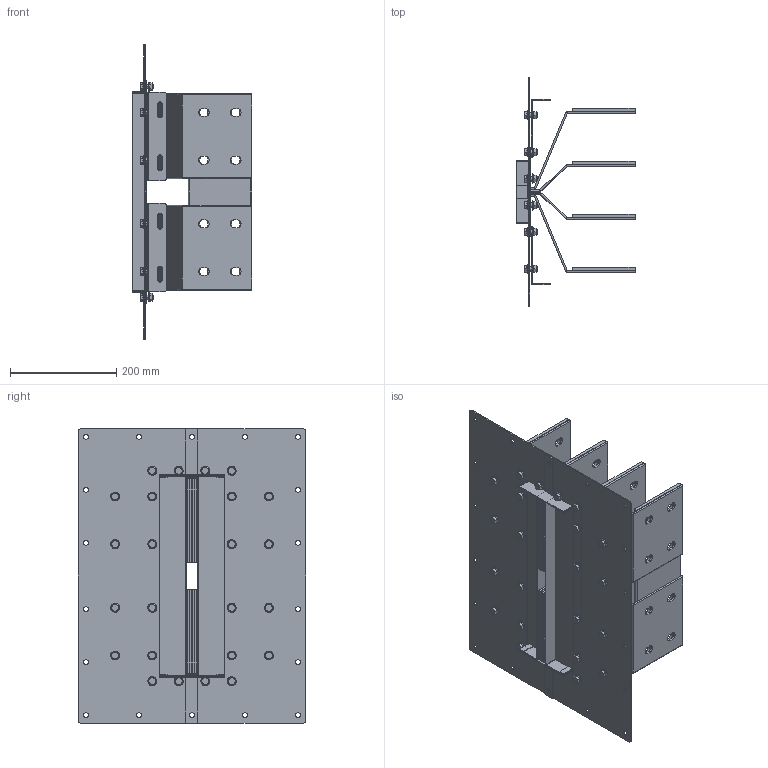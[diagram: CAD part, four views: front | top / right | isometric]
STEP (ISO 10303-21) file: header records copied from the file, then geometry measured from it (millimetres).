
FILE_DESCRIPTION(('CATIA V5 STEP','CAx-IF Rec.Pracs.--- Model Styling and Organization---1.5--- 2016-08-15','CAx-IF Rec.Pracs.---Supplemental Geometry---1.0---2011-11-01','CAx-IF Rec.Pracs.--- Composite Materials ---1.1---2010-07-15'),'2;1');
FILE_NAME('K:\COSCN 2011\32372311_RiduzioneSezioniBarre\03_Studio\__Modelli semplificati\XCP_UB semplificati per studi\XCP-S_UB_4C_Pe_STD_Assieme\Al\XCP-S_UB_4C_Pe_D_Assieme - 2500A Al\XCP-S_UB_4C_Pe_D_Assieme - 2500A Al.stp','2025-05-12T12:35:30+00:00',('Utente Bticino'),('Bticino S.p.A.'),'CATIA Version 5-6 Release 2020 SP5','CATIA V5 STEP AP214 v2','none');
FILE_SCHEMA(('AUTOMOTIVE_DESIGN { 1 0 10303 214 1 1 1 1 }'));
Length unit declared in the file: millimetre
Products named in the file (8): XCP-S_UB_4C_Pe_S_Assieme - 2500A Al; XCP-S_UB_4C_Pe_D_PaccoBarre_2500A Al; XCP-S_UB_4C_Pe_D_Lamiere_2500A Al; XCP-S_UB_4C_Pe_D_PaccoBarre_2500A Al_1; XCP-S_UB_4C_Pe_D - 2500A Al_Bandelle parallelo; Ass Vite+dado M8; Steel hex flanged SCREW M12x16; Steel hex flanged NUT M8
Assembly tree (30 placements, depth 3):
  XCP-S_UB_4C_Pe_S_Assieme - 2500A Al
    XCP-S_UB_4C_Pe_D_PaccoBarre_2500A Al
    XCP-S_UB_4C_Pe_D_Lamiere_2500A Al
    XCP-S_UB_4C_Pe_D_PaccoBarre_2500A Al_1
    XCP-S_UB_4C_Pe_D - 2500A Al_Bandelle parallelo
    Ass Vite+dado M8  x24
      Steel hex flanged SCREW M12x16
      Steel hex flanged NUT M8
Bounding box: 225 x 430 x 555 mm (x, y, z)
Volume: 3022217 mm3; surface area: 1921618.3 mm2
Topology: 70 solids, 70 shells, 1868 faces, 4636 edges, 2956 vertices
Faces by surface type: plane 792, cylinder 644, cone 192, bspline 192, torus 48
Entity records: 25579 total; most frequent: CARTESIAN_POINT 5512, ORIENTED_EDGE 4396, DIRECTION 3280, EDGE_CURVE 2198, VERTEX_POINT 1438, AXIS2_PLACEMENT_3D 1354, VECTOR 1344, LINE 1344
